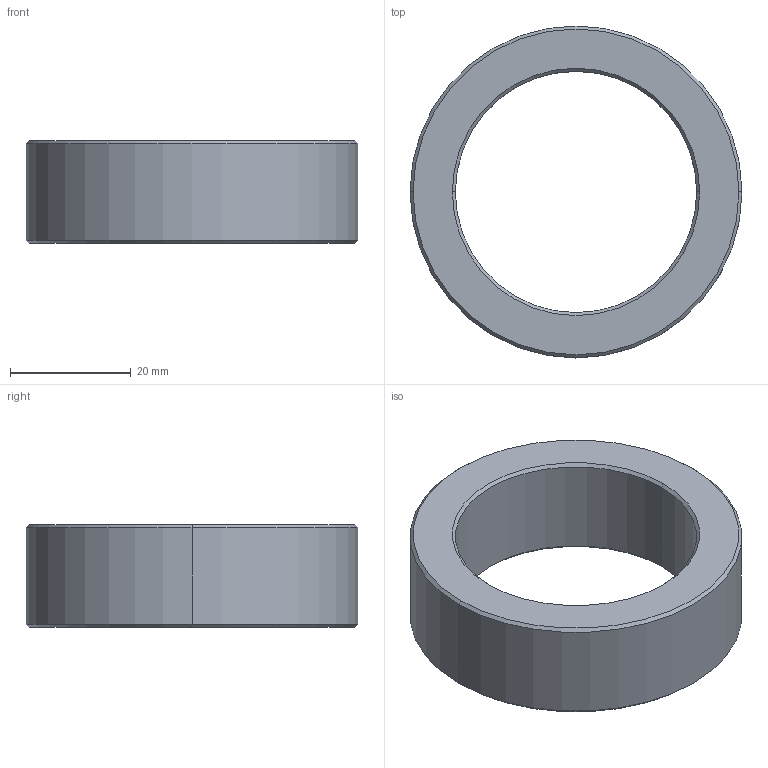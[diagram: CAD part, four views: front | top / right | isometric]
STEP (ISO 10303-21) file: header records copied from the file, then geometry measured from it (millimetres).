
FILE_DESCRIPTION (( 'STEP AP203' ), '1' );
FILE_NAME ('YWSD-2026-03-01-05=006 路杶I.STEP', '2026-07-24T07:41:02', ( 'Windows 蚚誧' ), ( '' ), 'SwSTEP 2.0', 'SolidWorks 2024', '' );
FILE_SCHEMA (( 'CONFIG_CONTROL_DESIGN' ));
Length unit declared in the file: millimetre
Products named in the file (1): YWSD-2026-03-01-05=006 隔套I
Bounding box: 55 x 55 x 17 mm (x, y, z)
Volume: 18951.7 mm3; surface area: 7137.2 mm2
Topology: 1 solids, 1 shells, 14 faces, 28 edges, 16 vertices
Faces by surface type: cone 8, cylinder 4, plane 2
Entity records: 445 total; most frequent: DIRECTION 74, CARTESIAN_POINT 59, ORIENTED_EDGE 56, AXIS2_PLACEMENT_3D 31, EDGE_CURVE 28, EDGE_LOOP 16, CIRCLE 16, VERTEX_POINT 16
